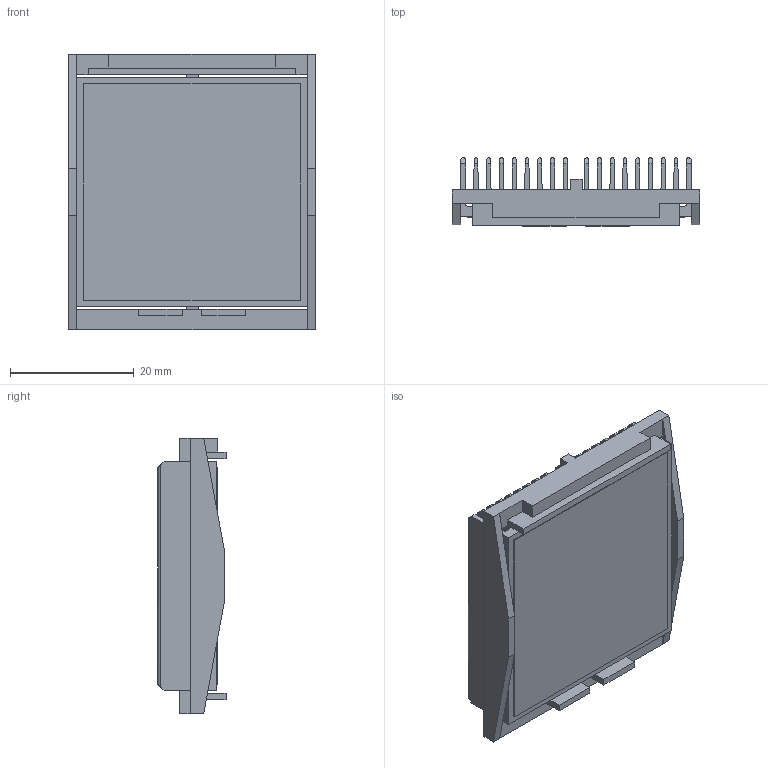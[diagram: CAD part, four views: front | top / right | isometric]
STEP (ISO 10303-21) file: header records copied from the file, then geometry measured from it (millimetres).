
FILE_DESCRIPTION (( 'STEP AP214' ), '1' );
FILE_NAME ('INL37.5001-10-1.7BU.STEP', '2023-03-01T15:45:07', ( '' ), ( '' ), 'SwSTEP 2.0', 'SolidWorks 2020', '' );
FILE_SCHEMA (( 'AUTOMOTIVE_DESIGN' ));
Length unit declared in the file: millimetre
Products named in the file (1): INL37.5001-10-1.7BU
Bounding box: 40.1 x 11 x 44.6 mm (x, y, z)
Volume: 7771 mm3; surface area: 18123.9 mm2
Topology: 3 solids, 3 shells, 198 faces, 578 edges, 384 vertices
Faces by surface type: plane 146, cylinder 52
Entity records: 8712 total; most frequent: CARTESIAN_POINT 1269, ORIENTED_EDGE 1156, DIRECTION 1008, EDGE_CURVE 578, LINE 474, VECTOR 474, VERTEX_POINT 384, AXIS2_PLACEMENT_3D 267
